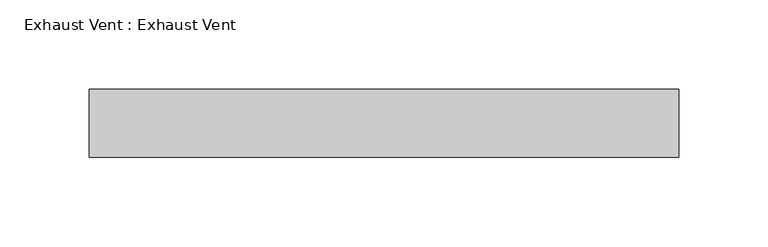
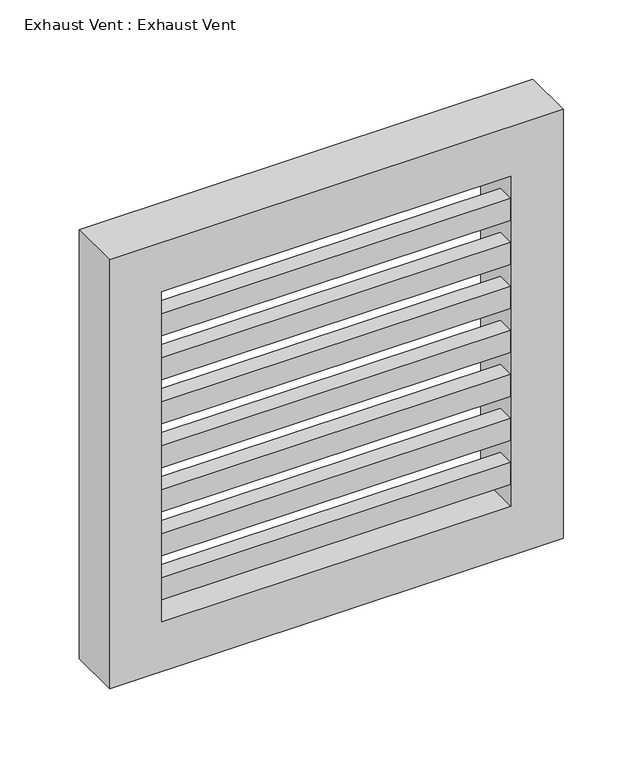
"""IFC4 building model written with IfcOpenShell, lengths in millimetres: proxy geometry, Exhaust Vent : Exhaust Vent."""

from ifc_helpers import new_model, si_unit, frame, origin, place, context, project, spatial, polyline, outline, extrude, source, transform, mapped, element, save


def exhaust_vent_exhaust_vent_fc6d5a12(model_context):
    return source(origin(), model_context, "Body", "SweptSolid", [
        extrude(outline(polyline([(2120.9, -173.2443955), (1790.7, -173.2443955), (1790.7, 156.9556045), (2120.9, 156.9556045), (2120.9, -173.2443955)]), holes=[polyline([(2082.8, 118.8556045), (1828.8, 118.8556045), (1828.8, -135.1443955), (2082.8, -135.1443955), (2082.8, 118.8556045)])]), frame((0.0, 127.0, 0.0), z_axis=(0.0, 1.0, 0.0), x_axis=(0.0, 0.0, 1.0)), (0.0, 0.0, 1.0), 38.1),
        extrude(outline(polyline([(118.8556045, 127.0), (-135.1443955, 127.0), (-135.1443955, 139.7), (118.8556045, 139.7), (118.8556045, 127.0)])), frame((0.0, 0.0, 2048.9333333), z_axis=(0.0, 0.0, 1.0), x_axis=(1.0, 0.0, 0.0)), (0.0, 0.0, 1.0), 16.9333333),
        extrude(outline(polyline([(118.8556045, 127.0), (-135.1443955, 127.0), (-135.1443955, 139.7), (118.8556045, 139.7), (118.8556045, 127.0)])), frame((0.0, 0.0, 2015.0666667), z_axis=(0.0, 0.0, 1.0), x_axis=(1.0, 0.0, 0.0)), (0.0, 0.0, 1.0), 16.9333333),
        extrude(outline(polyline([(118.8556045, 127.0), (-135.1443955, 127.0), (-135.1443955, 139.7), (118.8556045, 139.7), (118.8556045, 127.0)])), frame((0.0, 0.0, 1981.2), z_axis=(0.0, 0.0, 1.0), x_axis=(1.0, 0.0, 0.0)), (0.0, 0.0, 1.0), 16.9333333),
        extrude(outline(polyline([(118.8556045, 127.0), (-135.1443955, 127.0), (-135.1443955, 139.7), (118.8556045, 139.7), (118.8556045, 127.0)])), frame((0.0, 0.0, 1947.3333333), z_axis=(0.0, 0.0, 1.0), x_axis=(1.0, 0.0, 0.0)), (0.0, 0.0, 1.0), 16.9333333),
        extrude(outline(polyline([(118.8556045, 127.0), (-135.1443955, 127.0), (-135.1443955, 139.7), (118.8556045, 139.7), (118.8556045, 127.0)])), frame((0.0, 0.0, 1913.4666667), z_axis=(0.0, 0.0, 1.0), x_axis=(1.0, 0.0, 0.0)), (0.0, 0.0, 1.0), 16.9333333),
        extrude(outline(polyline([(118.8556045, 127.0), (-135.1443955, 127.0), (-135.1443955, 139.7), (118.8556045, 139.7), (118.8556045, 127.0)])), frame((0.0, 0.0, 1879.6), z_axis=(0.0, 0.0, 1.0), x_axis=(1.0, 0.0, 0.0)), (0.0, 0.0, 1.0), 16.9333333),
        extrude(outline(polyline([(118.8556045, 127.0), (-135.1443955, 127.0), (-135.1443955, 139.7), (118.8556045, 139.7), (118.8556045, 127.0)])), frame((0.0, 0.0, 1845.7333333), z_axis=(0.0, 0.0, 1.0), x_axis=(1.0, 0.0, 0.0)), (0.0, 0.0, 1.0), 16.9333333),
    ])


if __name__ == "__main__":
    model = new_model("IFC4")
    model_context = context("Model", 3, world=origin())
    ifc_project = project(units=[si_unit("LENGTHUNIT", "METRE", prefix="MILLI")], contexts=[model_context])
    site = spatial("IfcSite", under=ifc_project)
    building = spatial("IfcBuilding", under=site)
    placement = place(None, origin())
    exhaust_vent_exhaust_vent_shape = exhaust_vent_exhaust_vent_fc6d5a12(model_context)
    element("IfcBuildingElementProxy", 1, Name="Exhaust Vent : Exhaust Vent", ObjectType="Exhaust Vent : Exhaust Vent", at=placement, inside=building, context=model_context, shape_type="MappedRepresentation", body=[
        mapped(exhaust_vent_exhaust_vent_shape, transform((0.0, 0.0, 0.0), x_axis=(1.0, 0.0, 0.0), y_axis=(0.0, 1.0, 0.0), z_axis=(0.0, 0.0, 1.0))),
    ])
    save(model, "model.ifc")
